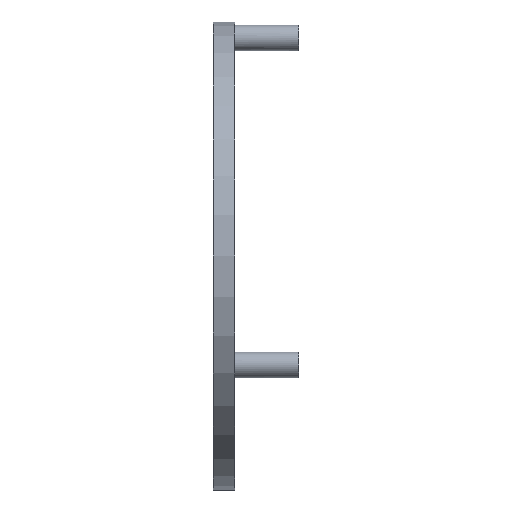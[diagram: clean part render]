
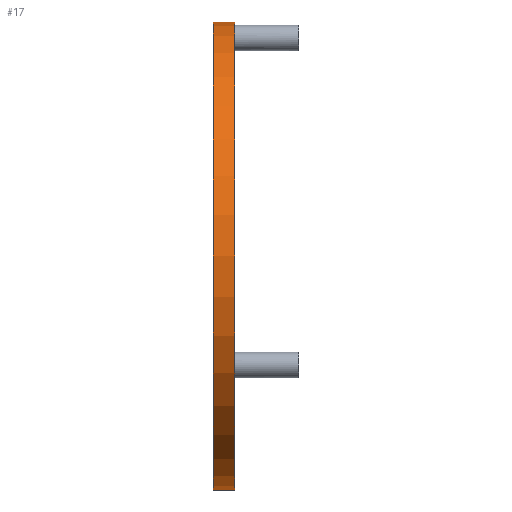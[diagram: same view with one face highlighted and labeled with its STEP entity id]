
A CAD part, front view. The second image highlights one B-rep face of the part: STEP entity #17.
In plain terms, the highlighted cylindrical face has radius 33 mm (diameter 66 mm), a full revolution.
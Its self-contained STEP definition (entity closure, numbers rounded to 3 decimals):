
#17 = ADVANCED_FACE('',(#18),#31,.T.);
#18 = FACE_BOUND('',#19,.T.);
#19 = EDGE_LOOP('',(#20,#54,#77,#104));
#20 = ORIENTED_EDGE('',*,*,#21,.F.);
#21 = EDGE_CURVE('',#22,#22,#24,.T.);
#22 = VERTEX_POINT('',#23);
#23 = CARTESIAN_POINT('',(15.,0.,217.));
#24 = SURFACE_CURVE('',#25,(#30,#42),.PCURVE_S1.);
#25 = CIRCLE('',#26,33.);
#26 = AXIS2_PLACEMENT_3D('',#27,#28,#29);
#27 = CARTESIAN_POINT('',(15.,0.,184.));
#28 = DIRECTION('',(1.,0.,0.));
#29 = DIRECTION('',(-0.,0.,1.));
#30 = PCURVE('',#31,#36);
#31 = CYLINDRICAL_SURFACE('',#32,33.);
#32 = AXIS2_PLACEMENT_3D('',#33,#34,#35);
#33 = CARTESIAN_POINT('',(12.,0.,184.));
#34 = DIRECTION('',(1.,0.,0.));
#35 = DIRECTION('',(-0.,0.,1.));
#36 = DEFINITIONAL_REPRESENTATION('',(#37),#41);
#37 = LINE('',#38,#39);
#38 = CARTESIAN_POINT('',(0.,3.));
#39 = VECTOR('',#40,1.);
#40 = DIRECTION('',(1.,0.));
#41 = ( GEOMETRIC_REPRESENTATION_CONTEXT(2) 
PARAMETRIC_REPRESENTATION_CONTEXT() REPRESENTATION_CONTEXT('2D SPACE',''
  ) );
#42 = PCURVE('',#43,#48);
#43 = PLANE('',#44);
#44 = AXIS2_PLACEMENT_3D('',#45,#46,#47);
#45 = CARTESIAN_POINT('',(15.,0.,184.));
#46 = DIRECTION('',(1.,0.,0.));
#47 = DIRECTION('',(-0.,0.,1.));
#48 = DEFINITIONAL_REPRESENTATION('',(#49),#53);
#49 = CIRCLE('',#50,33.);
#50 = AXIS2_PLACEMENT_2D('',#51,#52);
#51 = CARTESIAN_POINT('',(0.,0.));
#52 = DIRECTION('',(1.,0.));
#53 = ( GEOMETRIC_REPRESENTATION_CONTEXT(2) 
PARAMETRIC_REPRESENTATION_CONTEXT() REPRESENTATION_CONTEXT('2D SPACE',''
  ) );
#54 = ORIENTED_EDGE('',*,*,#55,.F.);
#55 = EDGE_CURVE('',#56,#22,#58,.T.);
#56 = VERTEX_POINT('',#57);
#57 = CARTESIAN_POINT('',(12.,0.,217.));
#58 = SEAM_CURVE('',#59,(#63,#70),.PCURVE_S1.);
#59 = LINE('',#60,#61);
#60 = CARTESIAN_POINT('',(12.,0.,217.));
#61 = VECTOR('',#62,1.);
#62 = DIRECTION('',(1.,0.,0.));
#63 = PCURVE('',#31,#64);
#64 = DEFINITIONAL_REPRESENTATION('',(#65),#69);
#65 = LINE('',#66,#67);
#66 = CARTESIAN_POINT('',(0.,-0.));
#67 = VECTOR('',#68,1.);
#68 = DIRECTION('',(0.,1.));
#69 = ( GEOMETRIC_REPRESENTATION_CONTEXT(2) 
PARAMETRIC_REPRESENTATION_CONTEXT() REPRESENTATION_CONTEXT('2D SPACE',''
  ) );
#70 = PCURVE('',#31,#71);
#71 = DEFINITIONAL_REPRESENTATION('',(#72),#76);
#72 = LINE('',#73,#74);
#73 = CARTESIAN_POINT('',(6.283,-0.));
#74 = VECTOR('',#75,1.);
#75 = DIRECTION('',(0.,1.));
#76 = ( GEOMETRIC_REPRESENTATION_CONTEXT(2) 
PARAMETRIC_REPRESENTATION_CONTEXT() REPRESENTATION_CONTEXT('2D SPACE',''
  ) );
#77 = ORIENTED_EDGE('',*,*,#78,.T.);
#78 = EDGE_CURVE('',#56,#56,#79,.T.);
#79 = SURFACE_CURVE('',#80,(#85,#92),.PCURVE_S1.);
#80 = CIRCLE('',#81,33.);
#81 = AXIS2_PLACEMENT_3D('',#82,#83,#84);
#82 = CARTESIAN_POINT('',(12.,0.,184.));
#83 = DIRECTION('',(1.,0.,0.));
#84 = DIRECTION('',(-0.,0.,1.));
#85 = PCURVE('',#31,#86);
#86 = DEFINITIONAL_REPRESENTATION('',(#87),#91);
#87 = LINE('',#88,#89);
#88 = CARTESIAN_POINT('',(0.,0.));
#89 = VECTOR('',#90,1.);
#90 = DIRECTION('',(1.,0.));
#91 = ( GEOMETRIC_REPRESENTATION_CONTEXT(2) 
PARAMETRIC_REPRESENTATION_CONTEXT() REPRESENTATION_CONTEXT('2D SPACE',''
  ) );
#92 = PCURVE('',#93,#98);
#93 = PLANE('',#94);
#94 = AXIS2_PLACEMENT_3D('',#95,#96,#97);
#95 = CARTESIAN_POINT('',(12.,0.,184.));
#96 = DIRECTION('',(1.,0.,0.));
#97 = DIRECTION('',(-0.,0.,1.));
#98 = DEFINITIONAL_REPRESENTATION('',(#99),#103);
#99 = CIRCLE('',#100,33.);
#100 = AXIS2_PLACEMENT_2D('',#101,#102);
#101 = CARTESIAN_POINT('',(0.,0.));
#102 = DIRECTION('',(1.,0.));
#103 = ( GEOMETRIC_REPRESENTATION_CONTEXT(2) 
PARAMETRIC_REPRESENTATION_CONTEXT() REPRESENTATION_CONTEXT('2D SPACE',''
  ) );
#104 = ORIENTED_EDGE('',*,*,#55,.T.);
